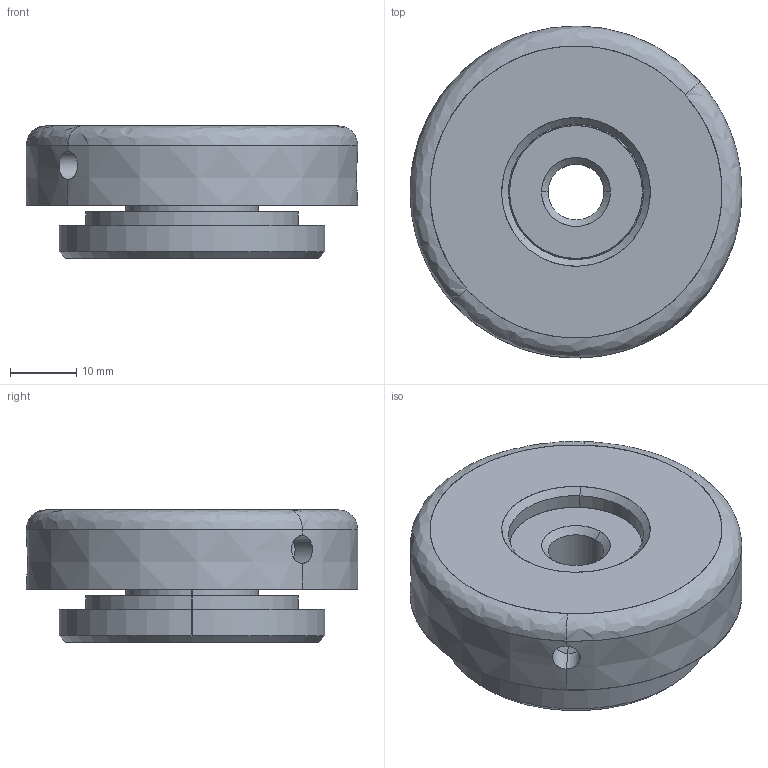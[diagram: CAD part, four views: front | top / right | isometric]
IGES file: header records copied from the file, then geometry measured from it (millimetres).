
Start section: SolidWorks IGES file using analytic representation for surfaces
Global section: file name: R:\Inventor\Kundmodeller Solidworks\Chuckar\041J000005 Saw blade holder Ø32 mm.IGS; native system: SolidWorks 2008; preprocessor: SolidWorks 2008; author: Johan; date: 090903.153840; units: millimetre
Bounding box: 50 x 50 x 20 mm (x, y, z)
Surface area: 10278.4 mm2 (no closed solid volume)
Topology: 0 solids, 0 shells, 50 faces, 964 edges, 962 vertices
Faces by surface type: revolution 36, bspline 14
